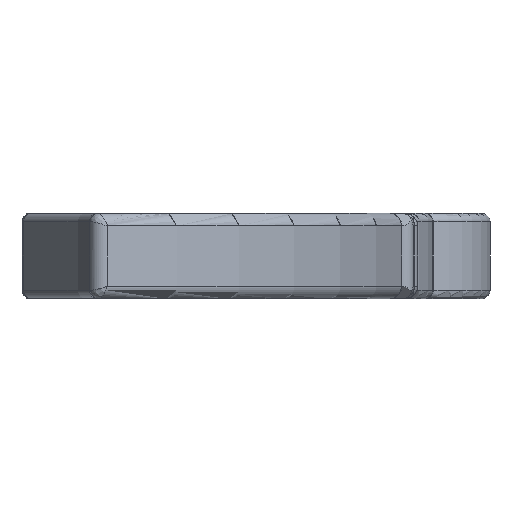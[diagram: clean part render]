
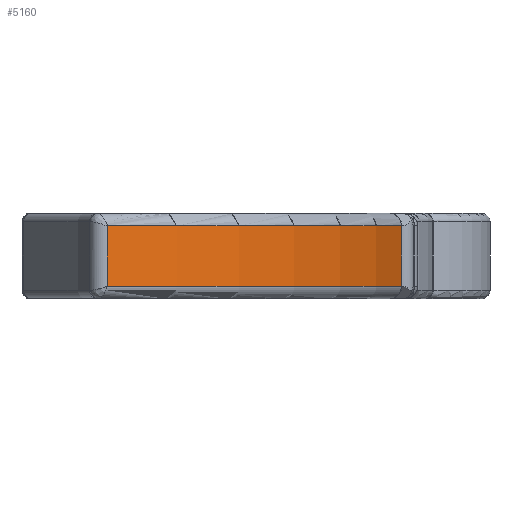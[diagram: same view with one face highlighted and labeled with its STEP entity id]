
A CAD part, left-side view. The second image highlights one B-rep face of the part: STEP entity #5160.
In plain terms, the highlighted cylindrical face has radius 30 mm (diameter 60 mm), a partial arc.
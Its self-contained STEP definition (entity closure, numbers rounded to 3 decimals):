
#285=LINE('',#7813,#706);
#512=LINE('',#8774,#933);
#706=VECTOR('',#5961,10.);
#933=VECTOR('',#6850,10.);
#1215=CYLINDRICAL_SURFACE('',#5765,30.);
#1533=FACE_OUTER_BOUND('',#1850,.T.);
#1850=EDGE_LOOP('',(#4497,#4498,#4499,#4500));
#1967=CIRCLE('',#5299,30.);
#1971=CIRCLE('',#5305,30.);
#2158=VERTEX_POINT('',#7695);
#2163=VERTEX_POINT('',#7781);
#2166=VERTEX_POINT('',#7806);
#2168=VERTEX_POINT('',#7818);
#2639=EDGE_CURVE('',#2163,#2166,#1967,.T.);
#2641=EDGE_CURVE('',#2158,#2163,#285,.T.);
#2645=EDGE_CURVE('',#2168,#2158,#1971,.T.);
#3093=EDGE_CURVE('',#2166,#2168,#512,.T.);
#4497=ORIENTED_EDGE('',*,*,#2645,.F.);
#4498=ORIENTED_EDGE('',*,*,#3093,.F.);
#4499=ORIENTED_EDGE('',*,*,#2639,.F.);
#4500=ORIENTED_EDGE('',*,*,#2641,.F.);
#5160=ADVANCED_FACE('',(#1533),#1215,.T.);
#5299=AXIS2_PLACEMENT_3D('',#7810,#5955,#5956);
#5305=AXIS2_PLACEMENT_3D('',#7820,#5969,#5970);
#5765=AXIS2_PLACEMENT_3D('',#9156,#7260,#7261);
#5955=DIRECTION('center_axis',(0.,0.,1.));
#5956=DIRECTION('ref_axis',(-0.665,-0.747,0.));
#5961=DIRECTION('',(0.,0.,1.));
#5969=DIRECTION('center_axis',(0.,0.,-1.));
#5970=DIRECTION('ref_axis',(-0.665,-0.747,0.));
#6850=DIRECTION('',(0.,0.,-1.));
#7260=DIRECTION('center_axis',(0.,0.,1.));
#7261=DIRECTION('ref_axis',(-0.942,-0.336,0.));
#7695=CARTESIAN_POINT('',(21.523,-97.743,-1.75));
#7781=CARTESIAN_POINT('',(21.523,-97.743,1.75));
#7806=CARTESIAN_POINT('',(41.585,-114.882,1.75));
#7810=CARTESIAN_POINT('Origin',(49.055,-85.827,1.75));
#7813=CARTESIAN_POINT('',(21.523,-97.743,0.));
#7818=CARTESIAN_POINT('',(41.585,-114.882,-1.75));
#7820=CARTESIAN_POINT('Origin',(49.055,-85.827,-1.75));
#8774=CARTESIAN_POINT('',(41.585,-114.882,0.));
#9156=CARTESIAN_POINT('Origin',(49.055,-85.827,0.));
